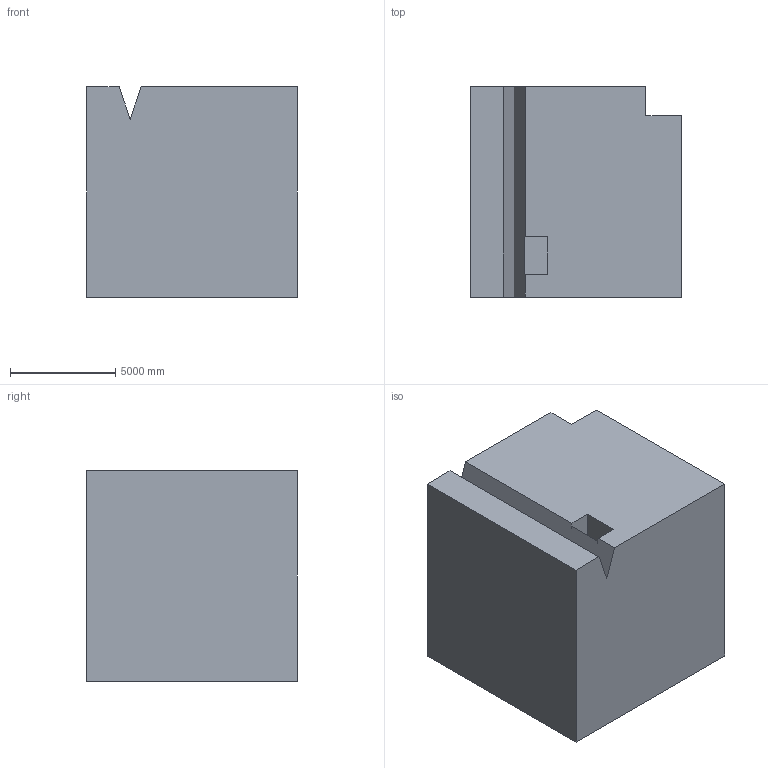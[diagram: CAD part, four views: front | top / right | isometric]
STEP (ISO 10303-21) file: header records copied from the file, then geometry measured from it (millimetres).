
FILE_DESCRIPTION (( 'STEP AP203' ), '1' );
FILE_NAME ('511.STEP', '2022-07-29T11:35:06', ( 'user' ), ( '' ), 'SwSTEP 2.0', 'SolidWorks 2021', '' );
FILE_SCHEMA (( 'CONFIG_CONTROL_DESIGN' ));
Length unit declared in the file: centimetre
Products named in the file (1): 511
Bounding box: 10000 x 10000 x 10000 mm (x, y, z)
Volume: 895540961646.2 mm3; surface area: 739759638.3 mm2
Topology: 1 solids, 1 shells, 33 faces, 90 edges, 60 vertices
Faces by surface type: plane 33
Entity records: 1101 total; most frequent: CARTESIAN_POINT 184, ORIENTED_EDGE 180, DIRECTION 158, VECTOR 90, LINE 90, EDGE_CURVE 90, VERTEX_POINT 60, AXIS2_PLACEMENT_3D 34
